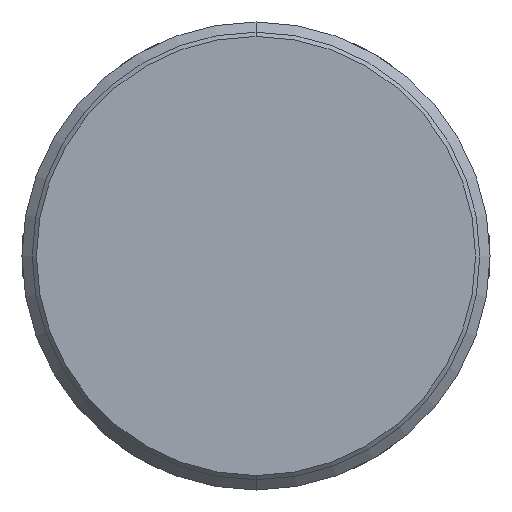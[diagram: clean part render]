
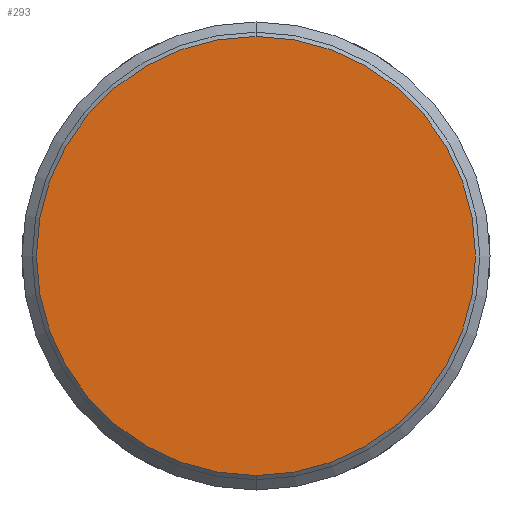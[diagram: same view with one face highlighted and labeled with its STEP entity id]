
A CAD part, front view. The second image highlights one B-rep face of the part: STEP entity #293.
In plain terms, the highlighted planar face has unit normal (0, -1, 0).
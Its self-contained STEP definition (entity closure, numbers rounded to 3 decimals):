
#268=CARTESIAN_POINT('',(0.0,-64.0,-25.8));
#269=VERTEX_POINT('',#268);
#270=CARTESIAN_POINT('',(0.0,-64.0,25.8));
#271=VERTEX_POINT('',#270);
#272=CARTESIAN_POINT('',(0.0,-64.0,0.0));
#273=DIRECTION('',(0.0,-1.0,0.0));
#274=DIRECTION('',(0.0,0.0,-1.0));
#275=AXIS2_PLACEMENT_3D('',#272,#273,#274);
#276=CIRCLE('',#275,25.8);
#277=EDGE_CURVE('no 2178',#269,#271,#276,.T.);
#278=ORIENTED_EDGE('',*,*,#277,.T.);
#279=CARTESIAN_POINT('',(0.0,-64.0,0.0));
#280=DIRECTION('',(0.0,-1.0,0.0));
#281=DIRECTION('',(0.0,0.0,-1.0));
#282=AXIS2_PLACEMENT_3D('',#279,#280,#281);
#283=CIRCLE('',#282,25.8);
#284=EDGE_CURVE('no 2182',#271,#269,#283,.T.);
#285=ORIENTED_EDGE('',*,*,#284,.T.);
#286=EDGE_LOOP('',(#278,#285));
#287=FACE_OUTER_BOUND('',#286,.T.);
#288=CARTESIAN_POINT('',(0.0,-64.0,0.0));
#289=DIRECTION('',(0.0,-1.0,0.0));
#290=DIRECTION('',(0.0,0.0,-1.0));
#291=AXIS2_PLACEMENT_3D('',#288,#289,#290);
#292=PLANE('',#291);
#293=ADVANCED_FACE('no 2169',(#287),#292,.T.);
